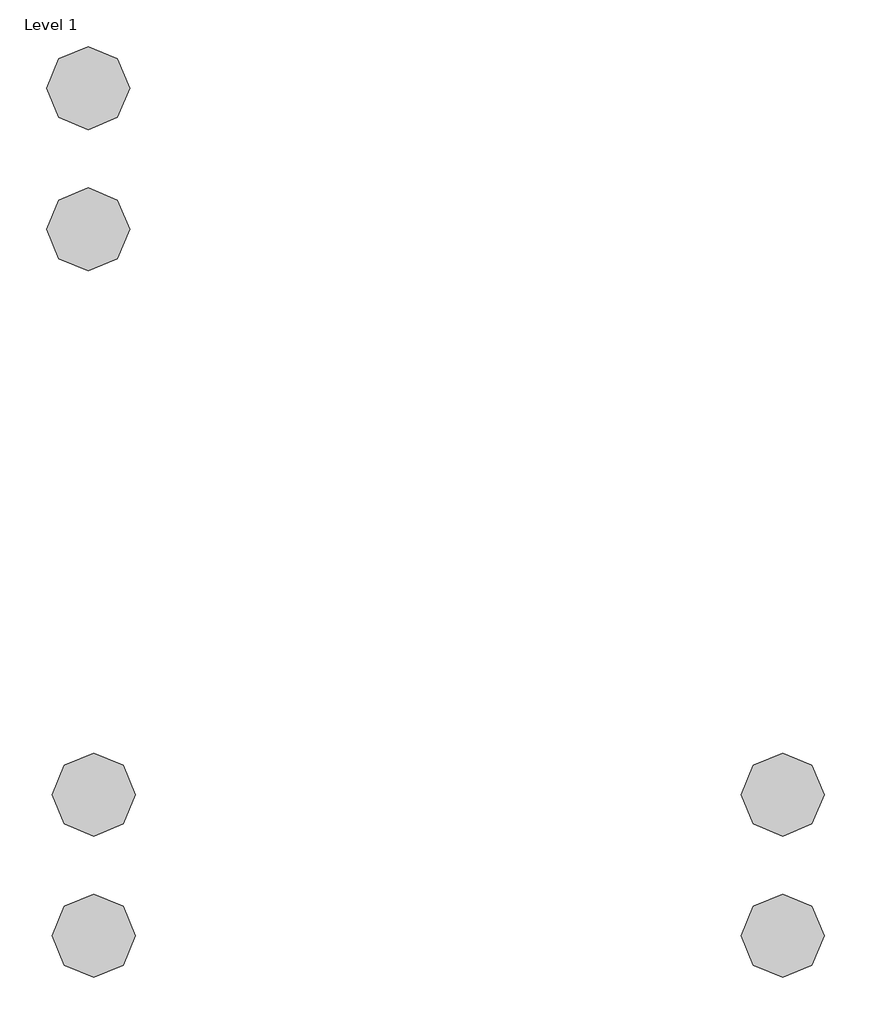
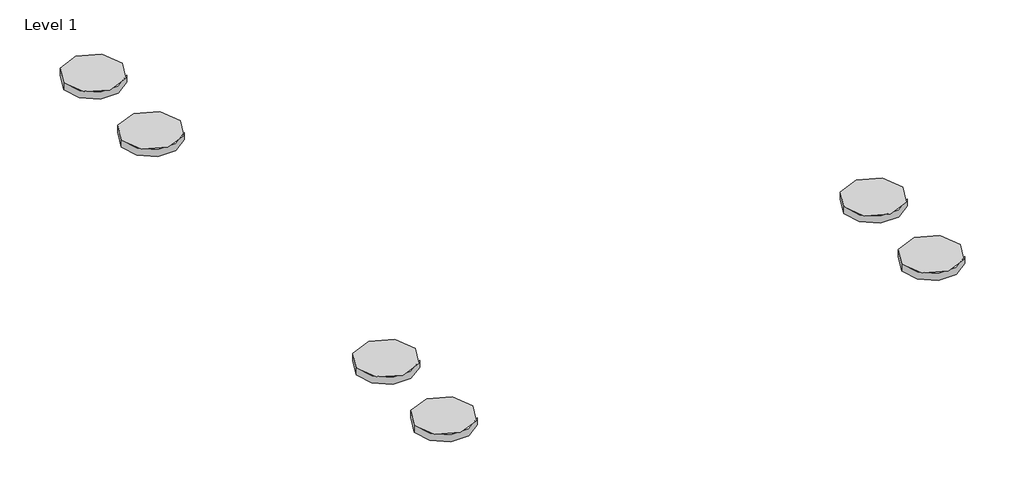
# One storey, incomplete: 6 proxies.
"""IFC4 building model written with IfcOpenShell, lengths in millimetres."""

from ifc_helpers import new_model, si_unit, origin, place, context, project, spatial, transform, mapped, element, save
from components import materialmodel_materialmodel_7e5ef11c

model = new_model("IFC4")

# Units and contexts
model_context = context("Model", 3, world=origin())
ifc_project = project(units=[si_unit("LENGTHUNIT", "METRE", prefix="MILLI")], contexts=[model_context])

# Site, building, storey
site = spatial("IfcSite", under=ifc_project)
building = spatial("IfcBuilding", under=site)
storey = spatial("IfcBuildingStorey", under=building, Name="Level 1", Elevation=0.0)

# Proxies
placement = place(None, origin())
materialmodel_materialmodel_shape = materialmodel_materialmodel_7e5ef11c(model_context)
element("IfcBuildingElementProxy", 1, Name="MaterialModel : MaterialModel", ObjectType="MaterialModel : MaterialModel", at=placement, inside=storey, context=model_context, shape_type="MappedRepresentation", body=[
    mapped(materialmodel_materialmodel_shape, transform((-10710.6502582, 4960.7172964, 0.0), x_axis=(1.0, 0.0, 0.0), y_axis=(0.0, 1.0, 0.0), z_axis=(0.0, 0.0, 1.0))),
])
element("IfcBuildingElementProxy", 2, Name="MaterialModel : MaterialModel", ObjectType="MaterialModel : MaterialModel", at=placement, inside=storey, context=model_context, shape_type="MappedRepresentation", body=[
    mapped(materialmodel_materialmodel_shape, transform((-14024.7531679, 5640.7172964, 0.0), x_axis=(1.0, 0.0, 0.0), y_axis=(0.0, 1.0, 0.0), z_axis=(0.0, 0.0, 1.0))),
])
element("IfcBuildingElementProxy", 3, Name="MaterialModel : MaterialModel", ObjectType="MaterialModel : MaterialModel", at=placement, inside=storey, context=model_context, shape_type="MappedRepresentation", body=[
    mapped(materialmodel_materialmodel_shape, transform((-14024.7531679, 4960.7172964, 0.0), x_axis=(1.0, 0.0, 0.0), y_axis=(0.0, 1.0, 0.0), z_axis=(0.0, 0.0, 1.0))),
])
element("IfcBuildingElementProxy", 4, Name="MaterialModel : MaterialModel", ObjectType="MaterialModel : MaterialModel", at=placement, inside=storey, context=model_context, shape_type="MappedRepresentation", body=[
    mapped(materialmodel_materialmodel_shape, transform((-10710.6502582, 5640.7172964, 0.0), x_axis=(1.0, 0.0, 0.0), y_axis=(0.0, 1.0, 0.0), z_axis=(0.0, 0.0, 1.0))),
])
element("IfcBuildingElementProxy", 5, Name="MaterialModel : MaterialModel", ObjectType="MaterialModel : MaterialModel", at=placement, inside=storey, context=model_context, shape_type="MappedRepresentation", body=[
    mapped(materialmodel_materialmodel_shape, transform((-14052.3623873, 9040.1412625, 0.0), x_axis=(1.0, 0.0, 0.0), y_axis=(0.0, 1.0, 0.0), z_axis=(0.0, 0.0, 1.0))),
])
element("IfcBuildingElementProxy", 6, Name="MaterialModel : MaterialModel", ObjectType="MaterialModel : MaterialModel", at=placement, inside=storey, context=model_context, shape_type="MappedRepresentation", body=[
    mapped(materialmodel_materialmodel_shape, transform((-14052.3623873, 8360.1412625, 0.0), x_axis=(1.0, 0.0, 0.0), y_axis=(0.0, 1.0, 0.0), z_axis=(0.0, 0.0, 1.0))),
])

save(model, "model.ifc")
